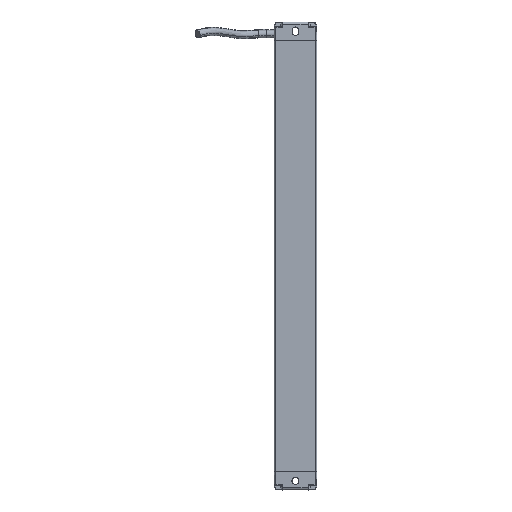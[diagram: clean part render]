
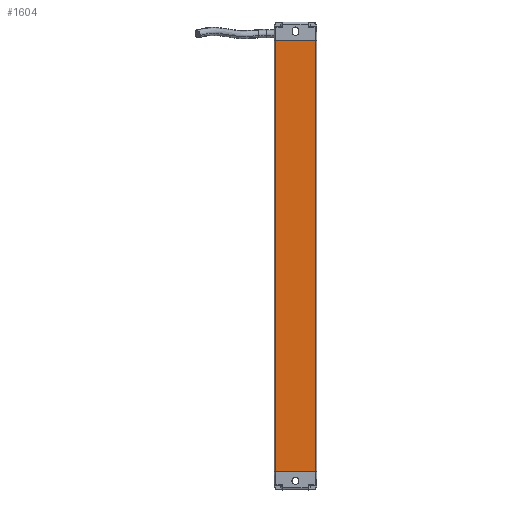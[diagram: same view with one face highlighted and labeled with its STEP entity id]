
A CAD part, front view. The second image highlights one B-rep face of the part: STEP entity #1604.
In plain terms, the highlighted planar face has unit normal (-0.001, -1, 0).
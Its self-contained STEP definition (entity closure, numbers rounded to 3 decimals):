
#1604=ADVANCED_FACE('',(#2720),#2349,.T.);
#2349=PLANE('',#14604);
#2720=FACE_OUTER_BOUND('',#3441,.T.);
#3441=EDGE_LOOP('',(#4477,#4478,#4479,#4480));
#4477=ORIENTED_EDGE('',*,*,#10104,.T.);
#4478=ORIENTED_EDGE('',*,*,#10057,.F.);
#4479=ORIENTED_EDGE('',*,*,#10102,.T.);
#4480=ORIENTED_EDGE('',*,*,#10105,.T.);
#8601=VERTEX_POINT('',#19861);
#8602=VERTEX_POINT('',#19863);
#8639=VERTEX_POINT('',#19952);
#8640=VERTEX_POINT('',#19956);
#10057=EDGE_CURVE('',#8601,#8602,#12174,.T.);
#10102=EDGE_CURVE('',#8601,#8639,#12205,.T.);
#10104=EDGE_CURVE('',#8640,#8602,#12206,.T.);
#10105=EDGE_CURVE('',#8639,#8640,#12207,.T.);
#12174=LINE('',#19862,#13389);
#12205=LINE('',#19951,#13420);
#12206=LINE('',#19955,#13421);
#12207=LINE('',#19957,#13422);
#13389=VECTOR('',#16033,1.);
#13420=VECTOR('',#16106,1.);
#13421=VECTOR('',#16111,1.);
#13422=VECTOR('',#16112,1.);
#14604=AXIS2_PLACEMENT_3D('',#19958,#16113,#16114);
#16033=DIRECTION('',(1.,-0.001,0.));
#16106=DIRECTION('',(0.,0.,-1.));
#16111=DIRECTION('',(0.,0.,1.));
#16112=DIRECTION('',(1.,-0.001,0.));
#16113=DIRECTION('',(-0.001,-1.,0.));
#16114=DIRECTION('',(1.,-0.001,0.));
#19861=CARTESIAN_POINT('',(53.048,-142.376,480.376));
#19862=CARTESIAN_POINT('',(79.028,-142.395,480.376));
#19863=CARTESIAN_POINT('',(79.028,-142.395,480.376));
#19951=CARTESIAN_POINT('',(53.048,-142.376,543.376));
#19952=CARTESIAN_POINT('',(53.048,-142.376,198.376));
#19955=CARTESIAN_POINT('',(79.028,-142.395,198.376));
#19956=CARTESIAN_POINT('',(79.028,-142.395,198.376));
#19957=CARTESIAN_POINT('',(53.048,-142.376,198.376));
#19958=CARTESIAN_POINT('',(79.028,-142.395,543.376));
